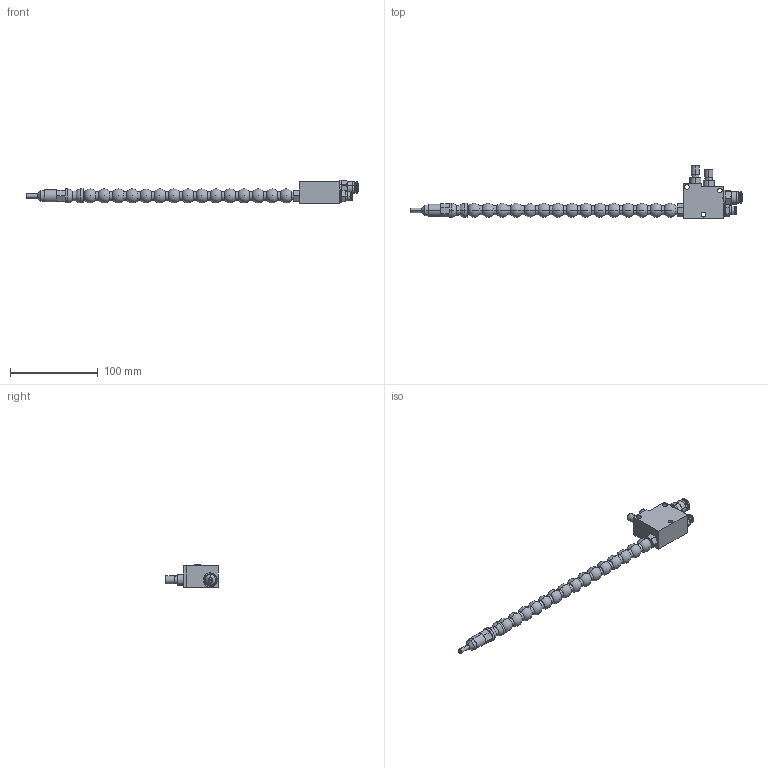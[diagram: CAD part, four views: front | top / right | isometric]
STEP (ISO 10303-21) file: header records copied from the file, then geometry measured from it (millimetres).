
FILE_DESCRIPTION (( 'STEP AP203' ), '1' );
FILE_NAME ('LSBC-R01.STEP', '2021-06-28T20:05:24', ( '' ), ( '' ), 'SwSTEP 2.0', 'SolidWorks 2019', '' );
FILE_SCHEMA (( 'CONFIG_CONTROL_DESIGN' ));
Length unit declared in the file: millimetre
Products named in the file (4): LSBC-R01; LSBC; FH04-01; FH08-01
Assembly tree (3 placements, depth 2):
  LSBC-R01
    LSBC
    FH08-01
    FH04-01
Bounding box: 378.4 x 59.9 x 26.49 mm (x, y, z)
Volume: 87572.2 mm3; surface area: 28468.1 mm2
Topology: 1 solids, 9 shells, 288 faces, 715 edges, 430 vertices
Faces by surface type: cylinder 108, plane 88, cone 46, sphere 30, torus 16
Entity records: 10713 total; most frequent: CARTESIAN_POINT 4307, ORIENTED_EDGE 1244, DIRECTION 1170, EDGE_CURVE 638, AXIS2_PLACEMENT_3D 481, VERTEX_POINT 385, EDGE_LOOP 327, ADVANCED_FACE 288
